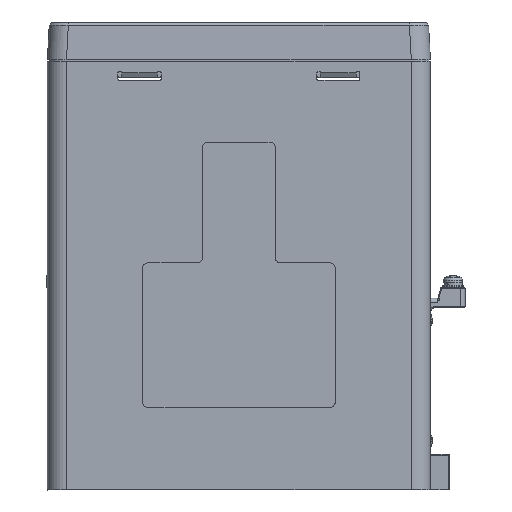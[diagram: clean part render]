
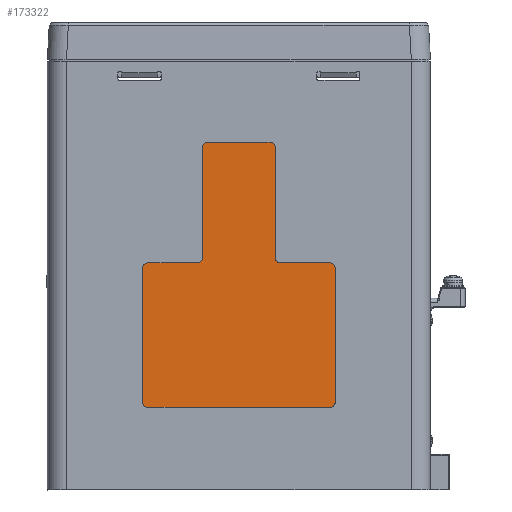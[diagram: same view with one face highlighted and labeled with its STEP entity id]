
A CAD part, front view. The second image highlights one B-rep face of the part: STEP entity #173322.
In plain terms, the highlighted planar face has unit normal (0, -1, 0).
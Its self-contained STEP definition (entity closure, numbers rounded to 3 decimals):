
#173016=CARTESIAN_POINT('',(-170.482,271.151,136.543));
#173017=VERTEX_POINT('',#173016);
#173025=CARTESIAN_POINT('',(-196.482,271.151,136.543));
#173026=VERTEX_POINT('',#173025);
#173033=CARTESIAN_POINT('',(-170.482,271.151,136.543));
#173034=DIRECTION('',(-1.,0.0,0.));
#173035=VECTOR('',#173034,26.);
#173036=LINE('',#173033,#173035);
#173037=EDGE_CURVE('',#173017,#173026,#173036,.T.);
#173047=CARTESIAN_POINT('',(-221.482,271.151,86.143));
#173048=VERTEX_POINT('',#173047);
#173055=CARTESIAN_POINT('',(-200.882,271.151,86.143));
#173056=VERTEX_POINT('',#173055);
#173057=CARTESIAN_POINT('',(-200.882,271.151,86.143));
#173058=DIRECTION('',(-1.,0.0,0.));
#173059=VECTOR('',#173058,20.6);
#173060=LINE('',#173057,#173059);
#173061=EDGE_CURVE('',#173056,#173048,#173060,.T.);
#173078=CARTESIAN_POINT('',(-143.282,271.151,27.943));
#173079=VERTEX_POINT('',#173078);
#173087=CARTESIAN_POINT('',(-143.282,271.151,83.943));
#173088=VERTEX_POINT('',#173087);
#173095=CARTESIAN_POINT('',(-143.282,271.151,27.943));
#173096=DIRECTION('',(0.,0.,1.));
#173097=VECTOR('',#173096,56.);
#173098=LINE('',#173095,#173097);
#173099=EDGE_CURVE('',#173079,#173088,#173098,.T.);
#173109=CARTESIAN_POINT('',(-198.682,271.151,134.343));
#173110=VERTEX_POINT('',#173109);
#173111=CARTESIAN_POINT('',(-196.482,271.151,134.343));
#173112=DIRECTION('',(0.,-1.,0.));
#173113=DIRECTION('',(-0.707,0.,0.707));
#173114=AXIS2_PLACEMENT_3D('',#173111,#173112,#173113);
#173115=CIRCLE('',#173114,2.2);
#173116=EDGE_CURVE('',#173026,#173110,#173115,.T.);
#173134=CARTESIAN_POINT('',(-198.682,271.151,88.343));
#173135=VERTEX_POINT('',#173134);
#173142=CARTESIAN_POINT('',(-198.682,271.151,134.343));
#173143=DIRECTION('',(0.,0.,-1.));
#173144=VECTOR('',#173143,46.);
#173145=LINE('',#173142,#173144);
#173146=EDGE_CURVE('',#173110,#173135,#173145,.T.);
#173160=CARTESIAN_POINT('',(-200.882,271.151,88.343));
#173161=DIRECTION('',(0.,1.0,0.));
#173162=DIRECTION('',(0.707,0.,-0.707));
#173163=AXIS2_PLACEMENT_3D('',#173160,#173161,#173162);
#173164=CIRCLE('',#173163,2.2);
#173165=EDGE_CURVE('',#173056,#173135,#173164,.F.);
#173176=CARTESIAN_POINT('',(-145.482,271.151,86.143));
#173177=VERTEX_POINT('',#173176);
#173178=CARTESIAN_POINT('',(-145.482,271.151,83.943));
#173179=DIRECTION('',(0.,-1.0,0.));
#173180=DIRECTION('',(0.707,0.,0.707));
#173181=AXIS2_PLACEMENT_3D('',#173178,#173179,#173180);
#173182=CIRCLE('',#173181,2.2);
#173183=EDGE_CURVE('',#173088,#173177,#173182,.T.);
#173201=CARTESIAN_POINT('',(-223.682,271.151,27.943));
#173202=VERTEX_POINT('',#173201);
#173203=CARTESIAN_POINT('',(-221.482,271.151,25.743));
#173204=VERTEX_POINT('',#173203);
#173205=CARTESIAN_POINT('',(-221.482,271.151,27.943));
#173206=DIRECTION('',(0.,-1.,0.));
#173207=DIRECTION('',(-0.707,0.,-0.707));
#173208=AXIS2_PLACEMENT_3D('',#173205,#173206,#173207);
#173209=CIRCLE('',#173208,2.2);
#173210=EDGE_CURVE('',#173202,#173204,#173209,.T.);
#173233=CARTESIAN_POINT('',(-223.682,271.151,83.943));
#173234=VERTEX_POINT('',#173233);
#173243=CARTESIAN_POINT('',(-223.682,271.151,83.943));
#173244=DIRECTION('',(0.,0.,-1.));
#173245=VECTOR('',#173244,56.);
#173246=LINE('',#173243,#173245);
#173247=EDGE_CURVE('',#173234,#173202,#173246,.T.);
#173252=CARTESIAN_POINT('',(-183.482,271.151,111.343));
#173253=DIRECTION('',(0.0,-1.0,0.0));
#173254=DIRECTION('',(0.,0.0,-1.));
#173255=AXIS2_PLACEMENT_3D('',#173252,#173253,#173254);
#173256=PLANE('',#173255);
#173257=CARTESIAN_POINT('',(-168.282,271.151,134.343));
#173258=VERTEX_POINT('',#173257);
#173259=CARTESIAN_POINT('',(-170.482,271.151,134.343));
#173260=DIRECTION('',(0.,-1.,0.));
#173261=DIRECTION('',(0.707,0.,0.707));
#173262=AXIS2_PLACEMENT_3D('',#173259,#173260,#173261);
#173263=CIRCLE('',#173262,2.2);
#173264=EDGE_CURVE('',#173258,#173017,#173263,.T.);
#173265=ORIENTED_EDGE('',*,*,#173264,.T.);
#173266=ORIENTED_EDGE('',*,*,#173037,.T.);
#173267=ORIENTED_EDGE('',*,*,#173116,.T.);
#173268=ORIENTED_EDGE('',*,*,#173146,.T.);
#173269=ORIENTED_EDGE('',*,*,#173165,.F.);
#173270=ORIENTED_EDGE('',*,*,#173061,.T.);
#173271=CARTESIAN_POINT('',(-221.482,271.151,83.943));
#173272=DIRECTION('',(0.,-1.0,0.));
#173273=DIRECTION('',(-0.707,0.,0.707));
#173274=AXIS2_PLACEMENT_3D('',#173271,#173272,#173273);
#173275=CIRCLE('',#173274,2.2);
#173276=EDGE_CURVE('',#173048,#173234,#173275,.T.);
#173277=ORIENTED_EDGE('',*,*,#173276,.T.);
#173278=ORIENTED_EDGE('',*,*,#173247,.T.);
#173279=ORIENTED_EDGE('',*,*,#173210,.T.);
#173280=CARTESIAN_POINT('',(-145.482,271.151,25.743));
#173281=VERTEX_POINT('',#173280);
#173282=CARTESIAN_POINT('',(-221.482,271.151,25.743));
#173283=DIRECTION('',(1.,0.,0.));
#173284=VECTOR('',#173283,76.);
#173285=LINE('',#173282,#173284);
#173286=EDGE_CURVE('',#173204,#173281,#173285,.T.);
#173287=ORIENTED_EDGE('',*,*,#173286,.T.);
#173288=CARTESIAN_POINT('',(-145.482,271.151,27.943));
#173289=DIRECTION('',(0.,-1.0,0.));
#173290=DIRECTION('',(0.707,0.,-0.707));
#173291=AXIS2_PLACEMENT_3D('',#173288,#173289,#173290);
#173292=CIRCLE('',#173291,2.2);
#173293=EDGE_CURVE('',#173281,#173079,#173292,.T.);
#173294=ORIENTED_EDGE('',*,*,#173293,.T.);
#173295=ORIENTED_EDGE('',*,*,#173099,.T.);
#173296=ORIENTED_EDGE('',*,*,#173183,.T.);
#173297=CARTESIAN_POINT('',(-166.082,271.151,86.143));
#173298=VERTEX_POINT('',#173297);
#173299=CARTESIAN_POINT('',(-145.482,271.151,86.143));
#173300=DIRECTION('',(-1.,0.,0.));
#173301=VECTOR('',#173300,20.6);
#173302=LINE('',#173299,#173301);
#173303=EDGE_CURVE('',#173177,#173298,#173302,.T.);
#173304=ORIENTED_EDGE('',*,*,#173303,.T.);
#173305=CARTESIAN_POINT('',(-168.282,271.151,88.343));
#173306=VERTEX_POINT('',#173305);
#173307=CARTESIAN_POINT('',(-166.082,271.151,88.343));
#173308=DIRECTION('',(0.,1.0,0.));
#173309=DIRECTION('',(-0.707,0.,-0.707));
#173310=AXIS2_PLACEMENT_3D('',#173307,#173308,#173309);
#173311=CIRCLE('',#173310,2.2);
#173312=EDGE_CURVE('',#173306,#173298,#173311,.F.);
#173313=ORIENTED_EDGE('',*,*,#173312,.F.);
#173314=CARTESIAN_POINT('',(-168.282,271.151,88.343));
#173315=DIRECTION('',(0.,0.,1.));
#173316=VECTOR('',#173315,46.);
#173317=LINE('',#173314,#173316);
#173318=EDGE_CURVE('',#173306,#173258,#173317,.T.);
#173319=ORIENTED_EDGE('',*,*,#173318,.T.);
#173320=EDGE_LOOP('',(#173265,#173266,#173267,#173268,#173269,#173270,#173277,#173278,#173279,#173287,#173294,#173295,#173296,#173304,#173313,#173319));
#173321=FACE_OUTER_BOUND('',#173320,.T.);
#173322=ADVANCED_FACE('',(#173321),#173256,.T.);
